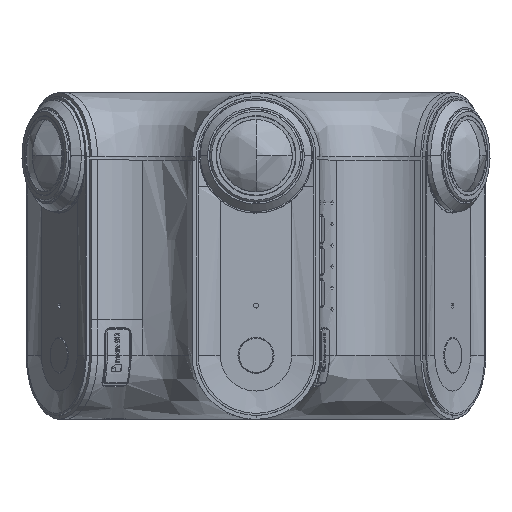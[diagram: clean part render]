
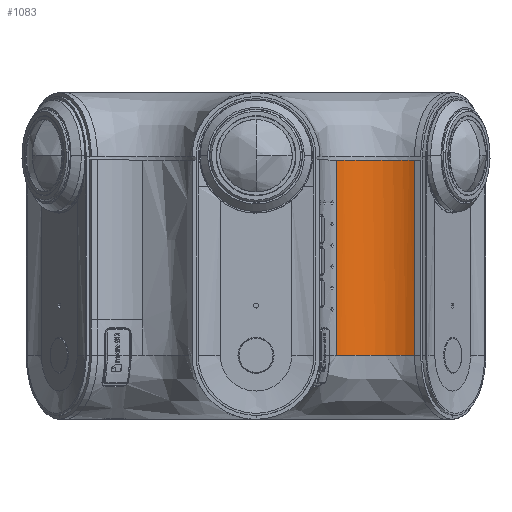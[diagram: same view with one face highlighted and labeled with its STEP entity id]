
A CAD part, front view. The second image highlights one B-rep face of the part: STEP entity #1083.
In plain terms, the highlighted free-form (B-spline) face has degree [1, 2] with [2, 9] control points.
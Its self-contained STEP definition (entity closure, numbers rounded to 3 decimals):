
#1083=ADVANCED_FACE('',(#2620),#24271,.T.);
#2620=FACE_OUTER_BOUND('',#4245,.T.);
#4245=EDGE_LOOP('',(#9584,#9585,#9586,#9587));
#9584=ORIENTED_EDGE('',*,*,#15080,.F.);
#9585=ORIENTED_EDGE('',*,*,#15081,.F.);
#9586=ORIENTED_EDGE('',*,*,#13115,.F.);
#9587=ORIENTED_EDGE('',*,*,#14689,.F.);
#13115=EDGE_CURVE('',#20786,#20785,#19490,.T.);
#14689=EDGE_CURVE('',#21800,#20786,#17999,.T.);
#15080=EDGE_CURVE('',#22046,#21800,#19894,.T.);
#15081=EDGE_CURVE('',#20785,#22046,#18336,.T.);
#17999=B_SPLINE_CURVE_WITH_KNOTS('',1,(#64193,#64194),.UNSPECIFIED.,.F.,
 .F.,(2,2),(0.,55.),.UNSPECIFIED.);
#18336=B_SPLINE_CURVE_WITH_KNOTS('',1,(#66109,#66110),.UNSPECIFIED.,.F.,
 .F.,(2,2),(0.,55.),.UNSPECIFIED.);
#19490=(
BOUNDED_CURVE()
B_SPLINE_CURVE(2,(#56815,#56816,#56817,#56818,#56819),.UNSPECIFIED.,.F.,
 .F.)
B_SPLINE_CURVE_WITH_KNOTS((3,2,3),(-24.102,-9.466,0.),
 .UNSPECIFIED.)
CURVE()
GEOMETRIC_REPRESENTATION_ITEM()
RATIONAL_B_SPLINE_CURVE((1.,0.915,1.,0.966,1.))
REPRESENTATION_ITEM('')
);
#19894=(
BOUNDED_CURVE()
B_SPLINE_CURVE(2,(#66104,#66105,#66106,#66107,#66108),.UNSPECIFIED.,.F.,
 .F.)
B_SPLINE_CURVE_WITH_KNOTS((3,2,3),(-24.102,-14.636,0.),
 .UNSPECIFIED.)
CURVE()
GEOMETRIC_REPRESENTATION_ITEM()
RATIONAL_B_SPLINE_CURVE((1.,0.966,1.,0.915,1.))
REPRESENTATION_ITEM('')
);
#20785=VERTEX_POINT('',#52801);
#20786=VERTEX_POINT('',#52802);
#21800=VERTEX_POINT('',#53816);
#22046=VERTEX_POINT('',#54062);
#24271=(
BOUNDED_SURFACE()
B_SPLINE_SURFACE(1,2,((#40837,#40838,#40839,#40840,#40841,#40842,#40843,
#40844,#40845),(#40846,#40847,#40848,#40849,#40850,#40851,#40852,#40853,
#40854)),.UNSPECIFIED.,.F.,.F.,.F.)
B_SPLINE_SURFACE_WITH_KNOTS((2,2),(3,2,2,2,3),(0.,66.546),(0.,
35.591,71.183,106.774,142.366),
 .UNSPECIFIED.)
GEOMETRIC_REPRESENTATION_ITEM()
RATIONAL_B_SPLINE_SURFACE(((1.,0.707,1.,0.707,1.,
0.707,1.,0.707,1.),(1.,0.707,1.,0.707,
1.,0.707,1.,0.707,1.)))
REPRESENTATION_ITEM('')
SURFACE()
);
#40837=CARTESIAN_POINT('',(35.796,-79.796,-60.773));
#40838=CARTESIAN_POINT('',(53.591,-79.796,-60.773));
#40839=CARTESIAN_POINT('',(53.591,-62.,-60.773));
#40840=CARTESIAN_POINT('',(53.591,-44.204,-60.773));
#40841=CARTESIAN_POINT('',(35.796,-44.204,-60.773));
#40842=CARTESIAN_POINT('',(18.,-44.204,-60.773));
#40843=CARTESIAN_POINT('',(18.,-62.,-60.773));
#40844=CARTESIAN_POINT('',(18.,-79.796,-60.773));
#40845=CARTESIAN_POINT('',(35.796,-79.796,-60.773));
#40846=CARTESIAN_POINT('',(35.796,-79.796,5.773));
#40847=CARTESIAN_POINT('',(53.591,-79.796,5.773));
#40848=CARTESIAN_POINT('',(53.591,-62.,5.773));
#40849=CARTESIAN_POINT('',(53.591,-44.204,5.773));
#40850=CARTESIAN_POINT('',(35.796,-44.204,5.773));
#40851=CARTESIAN_POINT('',(18.,-44.204,5.773));
#40852=CARTESIAN_POINT('',(18.,-62.,5.773));
#40853=CARTESIAN_POINT('',(18.,-79.796,5.773));
#40854=CARTESIAN_POINT('',(35.796,-79.796,5.773));
#52801=CARTESIAN_POINT('',(44.694,-46.588,0.));
#52802=CARTESIAN_POINT('',(22.655,-50.,0.));
#53816=CARTESIAN_POINT('',(22.655,-50.,-55.));
#54062=CARTESIAN_POINT('',(44.694,-46.588,-55.));
#56815=CARTESIAN_POINT('',(22.655,-50.,0.));
#56816=CARTESIAN_POINT('',(27.947,-44.204,0.));
#56817=CARTESIAN_POINT('',(35.796,-44.204,0.));
#56818=CARTESIAN_POINT('',(40.564,-44.204,0.));
#56819=CARTESIAN_POINT('',(44.694,-46.588,0.));
#64193=CARTESIAN_POINT('',(22.655,-50.,-55.));
#64194=CARTESIAN_POINT('',(22.655,-50.,0.));
#66104=CARTESIAN_POINT('',(44.694,-46.588,-55.));
#66105=CARTESIAN_POINT('',(40.564,-44.204,-55.));
#66106=CARTESIAN_POINT('',(35.796,-44.204,-55.));
#66107=CARTESIAN_POINT('',(27.947,-44.204,-55.));
#66108=CARTESIAN_POINT('',(22.655,-50.,-55.));
#66109=CARTESIAN_POINT('',(44.694,-46.588,0.));
#66110=CARTESIAN_POINT('',(44.694,-46.588,-55.));
